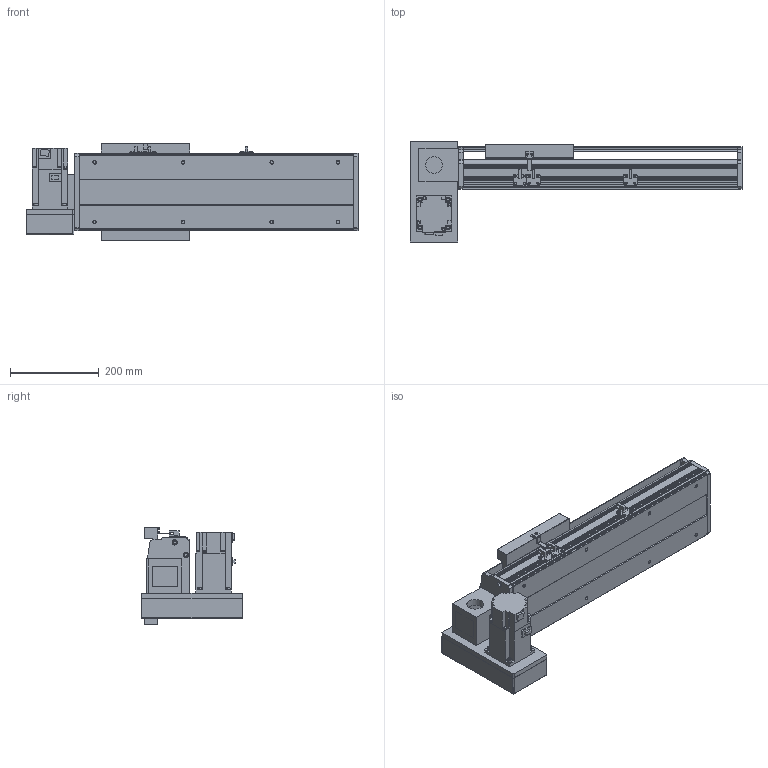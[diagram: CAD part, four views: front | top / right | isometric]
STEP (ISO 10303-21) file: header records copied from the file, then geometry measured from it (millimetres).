
FILE_DESCRIPTION(/* description */ ('STEP AP214'),/* implementation_level */ '2;1');
FILE_NAME(/* name */ 'PBS200-P40-S250-LD-T75-C1-N(0)',/* time_stamp */ '2022-06-11T08:43:13+02:00',/* author */ ('License CC BY-ND 4.0'),/* organization */ ('CADENAS'),/* preprocessor_version */ 'ST-DEVELOPER v18.102',/* originating_system */ 'PARTsolutions',/* authorisation */ ' ');
FILE_SCHEMA (('AUTOMOTIVE_DESIGN {1 0 10303 214 3 1 1}'));
Length unit declared in the file: millimetre
Products named in the file (7): PBS200-P40-S250-LD-T75-C1-N(0); PBS200_sensor; PBS200_plant; PBS200_sliser; T75-p1; PBS200T-LD_motors; PBS200-S250()_body
Assembly tree (8 placements, depth 2):
  PBS200-P40-S250-LD-T75-C1-N(0)
    PBS200_sensor  x3
    PBS200_plant
    PBS200_sliser
    T75-p1
    PBS200T-LD_motors
    PBS200-S250()_body
Bounding box: 750 x 230 x 221 mm (x, y, z)
Volume: 6554079.8 mm3; surface area: 1081083 mm2
Topology: 8 solids, 8 shells, 896 faces, 2334 edges, 1524 vertices
Faces by surface type: plane 566, cylinder 290, cone 40
Full cylindrical faces by diameter (mm): 2.459 x6, 3.242 x4, 4.5 x6, 4.917 x4, 5 x6, 6 x7, 6.6 x8, 6.647 x12, 8 x6, 10 x4, 12 x8, 38 x2, 40 x1, 70 x1
Entity records: 24101 total; most frequent: DIRECTION 4231, CARTESIAN_POINT 4120, ORIENTED_EDGE 3934, EDGE_CURVE 1967, AXIS2_PLACEMENT_3D 1459, VERTEX_POINT 1348, LINE 1313, VECTOR 1313
